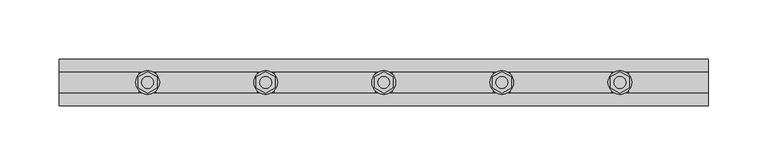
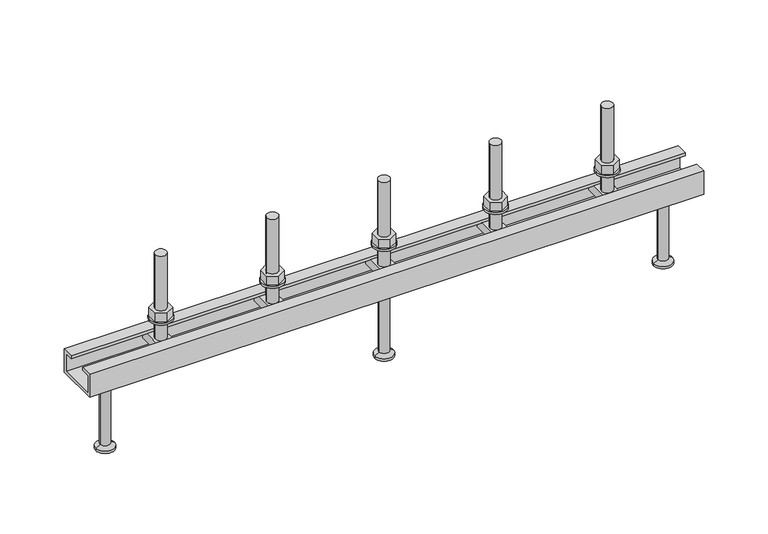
"""IFC4 building model written with IfcOpenShell, lengths in millimetres: fastener geometry, JTA-W JORDAHL® AnchorChannels : JTA-W L=550 mm."""

from ifc_helpers import new_model, si_unit, point, frame, frame_2d, origin, place, context, project, spatial, polyline, circle_curve, trimmed, segment, composite_curve, outline, extrude, source, transform, mapped, element, save
from ifc_brep_helpers import plane_surface, cylinder_surface, revolved_surface, advanced_brep


def fastener_d2bac832(model_context):
    return source(origin(), model_context, "Body", "SolidModel", [
        extrude(outline(polyline([(375.0, 9.2376043), (383.0, 4.6188022), (383.0, -4.6188022), (375.0, -9.2376043), (367.0, -4.6188022), (367.0, 4.6188022), (375.0, 9.2376043)]), holes=[composite_curve([segment(trimmed(circle_curve(frame_2d((375.0, 0.0)), 5.0), [point((370.0, 0.0))], [point((380.0, 0.0))], True, "CARTESIAN"), True, "CONTINUOUS"), segment(trimmed(circle_curve(frame_2d((375.0, 0.0)), 5.0), [point((380.0, 0.0))], [point((370.0, 0.0))], True, "CARTESIAN"), True, "CONTINUOUS")], self_intersect=False)]), frame((0.0, 0.0, 17.0), z_axis=(0.0, 0.0, 1.0), x_axis=(1.0, 0.0, 0.0)), (0.0, 0.0, 1.0), 8.4),
        extrude(outline(composite_curve([segment(trimmed(circle_curve(frame_2d((375.0, 0.0)), 10.0), [point((365.0, 0.0))], [point((385.0, 0.0))], False, "CARTESIAN"), True, "CONTINUOUS"), segment(trimmed(circle_curve(frame_2d((375.0, 0.0)), 10.0), [point((385.0, 0.0))], [point((365.0, 0.0))], False, "CARTESIAN"), True, "CONTINUOUS")], self_intersect=False), holes=[composite_curve([segment(trimmed(circle_curve(frame_2d((375.0, 0.0)), 5.25), [point((369.75, 0.0))], [point((380.25, 0.0))], True, "CARTESIAN"), True, "CONTINUOUS"), segment(trimmed(circle_curve(frame_2d((375.0, 0.0)), 5.25), [point((380.25, 0.0))], [point((369.75, 0.0))], True, "CARTESIAN"), True, "CONTINUOUS")], self_intersect=False)]), frame((0.0, 0.0, 15.0), z_axis=(0.0, 0.0, 1.0), x_axis=(1.0, 0.0, 0.0)), (0.0, 0.0, 1.0), 2.0),
        extrude(outline(polyline([(275.0, 9.2376043), (283.0, 4.6188022), (283.0, -4.6188022), (275.0, -9.2376043), (267.0, -4.6188022), (267.0, 4.6188022), (275.0, 9.2376043)]), holes=[composite_curve([segment(trimmed(circle_curve(frame_2d((275.0, 0.0)), 5.0), [point((270.0, 0.0))], [point((280.0, 0.0))], True, "CARTESIAN"), True, "CONTINUOUS"), segment(trimmed(circle_curve(frame_2d((275.0, 0.0)), 5.0), [point((280.0, 0.0))], [point((270.0, 0.0))], True, "CARTESIAN"), True, "CONTINUOUS")], self_intersect=False)]), frame((0.0, 0.0, 17.0), z_axis=(0.0, 0.0, 1.0), x_axis=(1.0, 0.0, 0.0)), (0.0, 0.0, 1.0), 8.4),
        extrude(outline(composite_curve([segment(trimmed(circle_curve(frame_2d((275.0, 0.0)), 10.0), [point((265.0, 0.0))], [point((285.0, 0.0))], False, "CARTESIAN"), True, "CONTINUOUS"), segment(trimmed(circle_curve(frame_2d((275.0, 0.0)), 10.0), [point((285.0, 0.0))], [point((265.0, 0.0))], False, "CARTESIAN"), True, "CONTINUOUS")], self_intersect=False), holes=[composite_curve([segment(trimmed(circle_curve(frame_2d((275.0, 0.0)), 5.25), [point((269.75, 0.0))], [point((280.25, 0.0))], True, "CARTESIAN"), True, "CONTINUOUS"), segment(trimmed(circle_curve(frame_2d((275.0, 0.0)), 5.25), [point((280.25, 0.0))], [point((269.75, 0.0))], True, "CARTESIAN"), True, "CONTINUOUS")], self_intersect=False)]), frame((0.0, 0.0, 15.0), z_axis=(0.0, 0.0, 1.0), x_axis=(1.0, 0.0, 0.0)), (0.0, 0.0, 1.0), 2.0),
        extrude(outline(polyline([(175.0, 9.2376043), (183.0, 4.6188022), (183.0, -4.6188022), (175.0, -9.2376043), (167.0, -4.6188022), (167.0, 4.6188022), (175.0, 9.2376043)]), holes=[composite_curve([segment(trimmed(circle_curve(frame_2d((175.0, 0.0)), 5.0), [point((170.0, 0.0))], [point((180.0, 0.0))], True, "CARTESIAN"), True, "CONTINUOUS"), segment(trimmed(circle_curve(frame_2d((175.0, 0.0)), 5.0), [point((180.0, 0.0))], [point((170.0, 0.0))], True, "CARTESIAN"), True, "CONTINUOUS")], self_intersect=False)]), frame((0.0, 0.0, 17.0), z_axis=(0.0, 0.0, 1.0), x_axis=(1.0, 0.0, 0.0)), (0.0, 0.0, 1.0), 8.4),
        extrude(outline(composite_curve([segment(trimmed(circle_curve(frame_2d((175.0, 0.0)), 10.0), [point((165.0, 0.0))], [point((185.0, 0.0))], False, "CARTESIAN"), True, "CONTINUOUS"), segment(trimmed(circle_curve(frame_2d((175.0, 0.0)), 10.0), [point((185.0, 0.0))], [point((165.0, 0.0))], False, "CARTESIAN"), True, "CONTINUOUS")], self_intersect=False), holes=[composite_curve([segment(trimmed(circle_curve(frame_2d((175.0, 0.0)), 5.25), [point((169.75, 0.0))], [point((180.25, 0.0))], True, "CARTESIAN"), True, "CONTINUOUS"), segment(trimmed(circle_curve(frame_2d((175.0, 0.0)), 5.25), [point((180.25, 0.0))], [point((169.75, 0.0))], True, "CARTESIAN"), True, "CONTINUOUS")], self_intersect=False)]), frame((0.0, 0.0, 15.0), z_axis=(0.0, 0.0, 1.0), x_axis=(1.0, 0.0, 0.0)), (0.0, 0.0, 1.0), 2.0),
        advanced_brep(
        [(382.0, 16.25, -3.0), (382.0, -16.25, -3.0), (382.0, -16.25, -11.0), (382.0, 16.25, -11.0), (368.0, 16.25, -3.0), (368.0, 16.25, -11.0), (368.0, -16.25, -11.0), (368.0, -16.25, -3.0), (380.0, 0.0, -3.0), (370.0, 0.0, -3.0), (370.0, 0.0, 77.0), (380.0, 0.0, 77.0)],
        [
            (0, 1),
            (1, 2),
            (2, 3),
            (3, 0),
            (4, 5),
            (5, 6),
            (6, 7),
            (7, 4),
            (0, 4),
            (7, 1),
            (8, 9, circle_curve(frame((375.0, 0.0, -3.0), z_axis=(0.0, 0.0, -1.0), x_axis=(1.0, 0.0, 0.0)), 5.0)),
            (9, 8, circle_curve(frame((375.0, 0.0, -3.0), z_axis=(0.0, 0.0, -1.0), x_axis=(1.0, 0.0, 0.0)), 5.0)),
            (6, 2),
            (5, 3),
            (10, 11, circle_curve(frame((375.0, 0.0, 77.0), z_axis=(0.0, 0.0, 1.0), x_axis=(1.0, 0.0, 0.0)), 5.0)),
            (11, 10, circle_curve(frame((375.0, 0.0, 77.0), z_axis=(0.0, 0.0, 1.0), x_axis=(1.0, 0.0, 0.0)), 5.0)),
            (10, 9),
            (8, 11),
        ],
        [
            plane_surface(frame((382.0, -16.25, -3.0), z_axis=(1.0, 0.0, 0.0), x_axis=(0.0, -1.0, 0.0))),
            plane_surface(frame((368.0, -16.25, -3.0), z_axis=(-1.0, 0.0, 0.0), x_axis=(0.0, 1.0, 0.0))),
            plane_surface(frame((382.0, 16.25, -3.0), z_axis=(0.0, 0.0, 1.0), x_axis=(-1.0, 0.0, 0.0))),
            plane_surface(frame((382.0, -16.25, -3.0), z_axis=(0.0, -1.0, 0.0), x_axis=(-1.0, 0.0, 0.0))),
            plane_surface(frame((382.0, -16.25, -11.0), z_axis=(0.0, 0.0, -1.0), x_axis=(-1.0, 0.0, 0.0))),
            plane_surface(frame((382.0, 16.25, -11.0), z_axis=(0.0, 1.0, 0.0), x_axis=(-1.0, 0.0, 0.0))),
            plane_surface(frame((380.0, 0.0, 77.0), z_axis=(0.0, 0.0, 1.0), x_axis=(0.0, 1.0, 0.0))),
            cylinder_surface(frame((375.0, 0.0, -3.0), z_axis=(0.0, 0.0, 1.0), x_axis=(1.0, 0.0, 0.0)), 5.0),
        ],
        [
            (0, [[1, 2, 3, 4]]),
            (1, [[5, 6, 7, 8]]),
            (2, [[-1, 9, -8, 10], [11, 12]]),
            (3, [[-2, -10, -7, 13]]),
            (4, [[-3, -13, -6, 14]]),
            (5, [[-4, -14, -5, -9]]),
            (6, [[15, 16]]),
            (7, [[-15, 17, -11, 18]]),
            (7, [[-16, -18, -12, -17]]),
        ],
    ),
        advanced_brep(
        [(282.0, 16.25, -3.0), (282.0, -16.25, -3.0), (282.0, -16.25, -11.0), (282.0, 16.25, -11.0), (268.0, 16.25, -3.0), (268.0, 16.25, -11.0), (268.0, -16.25, -11.0), (268.0, -16.25, -3.0), (280.0, 0.0, -3.0), (270.0, 0.0, -3.0), (270.0, 0.0, 77.0), (280.0, 0.0, 77.0)],
        [
            (0, 1),
            (1, 2),
            (2, 3),
            (3, 0),
            (4, 5),
            (5, 6),
            (6, 7),
            (7, 4),
            (0, 4),
            (7, 1),
            (8, 9, circle_curve(frame((275.0, 0.0, -3.0), z_axis=(0.0, 0.0, -1.0), x_axis=(1.0, 0.0, 0.0)), 5.0)),
            (9, 8, circle_curve(frame((275.0, 0.0, -3.0), z_axis=(0.0, 0.0, -1.0), x_axis=(1.0, 0.0, 0.0)), 5.0)),
            (6, 2),
            (5, 3),
            (10, 11, circle_curve(frame((275.0, 0.0, 77.0), z_axis=(0.0, 0.0, 1.0), x_axis=(1.0, 0.0, 0.0)), 5.0)),
            (11, 10, circle_curve(frame((275.0, 0.0, 77.0), z_axis=(0.0, 0.0, 1.0), x_axis=(1.0, 0.0, 0.0)), 5.0)),
            (10, 9),
            (8, 11),
        ],
        [
            plane_surface(frame((282.0, -16.25, -3.0), z_axis=(1.0, 0.0, 0.0), x_axis=(0.0, -1.0, 0.0))),
            plane_surface(frame((268.0, -16.25, -3.0), z_axis=(-1.0, 0.0, 0.0), x_axis=(0.0, 1.0, 0.0))),
            plane_surface(frame((282.0, 16.25, -3.0), z_axis=(0.0, 0.0, 1.0), x_axis=(-1.0, 0.0, 0.0))),
            plane_surface(frame((282.0, -16.25, -3.0), z_axis=(0.0, -1.0, 0.0), x_axis=(-1.0, 0.0, 0.0))),
            plane_surface(frame((282.0, -16.25, -11.0), z_axis=(0.0, 0.0, -1.0), x_axis=(-1.0, 0.0, 0.0))),
            plane_surface(frame((282.0, 16.25, -11.0), z_axis=(0.0, 1.0, 0.0), x_axis=(-1.0, 0.0, 0.0))),
            plane_surface(frame((280.0, 0.0, 77.0), z_axis=(0.0, 0.0, 1.0), x_axis=(0.0, 1.0, 0.0))),
            cylinder_surface(frame((275.0, 0.0, -3.0), z_axis=(0.0, 0.0, 1.0), x_axis=(1.0, 0.0, 0.0)), 5.0),
        ],
        [
            (0, [[1, 2, 3, 4]]),
            (1, [[5, 6, 7, 8]]),
            (2, [[-1, 9, -8, 10], [11, 12]]),
            (3, [[-2, -10, -7, 13]]),
            (4, [[-3, -13, -6, 14]]),
            (5, [[-4, -14, -5, -9]]),
            (6, [[15, 16]]),
            (7, [[-15, 17, -11, 18]]),
            (7, [[-16, -18, -12, -17]]),
        ],
    ),
        advanced_brep(
        [(182.0, 16.25, -3.0), (182.0, -16.25, -3.0), (182.0, -16.25, -11.0), (182.0, 16.25, -11.0), (168.0, 16.25, -3.0), (168.0, 16.25, -11.0), (168.0, -16.25, -11.0), (168.0, -16.25, -3.0), (180.0, 0.0, -3.0), (170.0, 0.0, -3.0), (170.0, 0.0, 77.0), (180.0, 0.0, 77.0)],
        [
            (0, 1),
            (1, 2),
            (2, 3),
            (3, 0),
            (4, 5),
            (5, 6),
            (6, 7),
            (7, 4),
            (0, 4),
            (7, 1),
            (8, 9, circle_curve(frame((175.0, 0.0, -3.0), z_axis=(0.0, 0.0, -1.0), x_axis=(1.0, 0.0, 0.0)), 5.0)),
            (9, 8, circle_curve(frame((175.0, 0.0, -3.0), z_axis=(0.0, 0.0, -1.0), x_axis=(1.0, 0.0, 0.0)), 5.0)),
            (6, 2),
            (5, 3),
            (10, 11, circle_curve(frame((175.0, 0.0, 77.0), z_axis=(0.0, 0.0, 1.0), x_axis=(1.0, 0.0, 0.0)), 5.0)),
            (11, 10, circle_curve(frame((175.0, 0.0, 77.0), z_axis=(0.0, 0.0, 1.0), x_axis=(1.0, 0.0, 0.0)), 5.0)),
            (10, 9),
            (8, 11),
        ],
        [
            plane_surface(frame((182.0, -16.25, -3.0), z_axis=(1.0, 0.0, 0.0), x_axis=(0.0, -1.0, 0.0))),
            plane_surface(frame((168.0, -16.25, -3.0), z_axis=(-1.0, 0.0, 0.0), x_axis=(0.0, 1.0, 0.0))),
            plane_surface(frame((182.0, 16.25, -3.0), z_axis=(0.0, 0.0, 1.0), x_axis=(-1.0, 0.0, 0.0))),
            plane_surface(frame((182.0, -16.25, -3.0), z_axis=(0.0, -1.0, 0.0), x_axis=(-1.0, 0.0, 0.0))),
            plane_surface(frame((182.0, -16.25, -11.0), z_axis=(0.0, 0.0, -1.0), x_axis=(-1.0, 0.0, 0.0))),
            plane_surface(frame((182.0, 16.25, -11.0), z_axis=(0.0, 1.0, 0.0), x_axis=(-1.0, 0.0, 0.0))),
            plane_surface(frame((180.0, 0.0, 77.0), z_axis=(0.0, 0.0, 1.0), x_axis=(0.0, 1.0, 0.0))),
            cylinder_surface(frame((175.0, 0.0, -3.0), z_axis=(0.0, 0.0, 1.0), x_axis=(1.0, 0.0, 0.0)), 5.0),
        ],
        [
            (0, [[1, 2, 3, 4]]),
            (1, [[5, 6, 7, 8]]),
            (2, [[-1, 9, -8, 10], [11, 12]]),
            (3, [[-2, -10, -7, 13]]),
            (4, [[-3, -13, -6, 14]]),
            (5, [[-4, -14, -5, -9]]),
            (6, [[15, 16]]),
            (7, [[-15, 17, -11, 18]]),
            (7, [[-16, -18, -12, -17]]),
        ],
    ),
        advanced_brep(
        [(275.0, 0.0, -22.0), (288.5, 0.0, -22.0), (261.5, 0.0, -22.0), (266.5, 0.0, -90.0), (283.5, 0.0, -90.0), (275.0, 0.0, -90.0), (266.5, 0.0, -88.0), (283.5, 0.0, -88.0), (270.5, 0.0, -85.6905989), (279.5, 0.0, -85.6905989), (270.5, 0.0, -24.5), (279.5, 0.0, -24.5)],
        [
            (0, 1),
            (1, 2, circle_curve(frame((275.0, 0.0, -22.0), z_axis=(0.0, 0.0, 1.0), x_axis=(1.0, 0.0, 0.0)), 13.5)),
            (2, 0),
            (2, 1, circle_curve(frame((275.0, 0.0, -22.0), z_axis=(0.0, 0.0, 1.0), x_axis=(1.0, 0.0, 0.0)), 13.5)),
            (3, 4, circle_curve(frame((275.0, 0.0, -90.0), z_axis=(0.0, 0.0, -1.0), x_axis=(1.0, 0.0, 0.0)), 8.5)),
            (4, 5),
            (5, 3),
            (4, 3, circle_curve(frame((275.0, 0.0, -90.0), z_axis=(0.0, 0.0, -1.0), x_axis=(1.0, 0.0, 0.0)), 8.5)),
            (6, 7, circle_curve(frame((275.0, 0.0, -88.0), z_axis=(0.0, 0.0, -1.0), x_axis=(1.0, 0.0, 0.0)), 8.5)),
            (7, 4),
            (3, 6),
            (7, 6, circle_curve(frame((275.0, 0.0, -88.0), z_axis=(0.0, 0.0, -1.0), x_axis=(1.0, 0.0, 0.0)), 8.5)),
            (8, 9, circle_curve(frame((275.0, 0.0, -85.6905989), z_axis=(0.0, 0.0, -1.0), x_axis=(1.0, 0.0, 0.0)), 4.5)),
            (9, 7),
            (6, 8),
            (9, 8, circle_curve(frame((275.0, 0.0, -85.6905989), z_axis=(0.0, 0.0, -1.0), x_axis=(1.0, 0.0, 0.0)), 4.5)),
            (10, 11, circle_curve(frame((275.0, 0.0, -24.5), z_axis=(0.0, 0.0, -1.0), x_axis=(1.0, 0.0, 0.0)), 4.5)),
            (11, 9),
            (8, 10),
            (11, 10, circle_curve(frame((275.0, 0.0, -24.5), z_axis=(0.0, 0.0, -1.0), x_axis=(1.0, 0.0, 0.0)), 4.5)),
            (1, 11),
            (10, 2),
        ],
        [
            plane_surface(frame((275.0, 0.0, -22.0), z_axis=(0.0, 0.0, 1.0), x_axis=(1.0, 0.0, 0.0))),
            plane_surface(frame((275.0, 0.0, -90.0), z_axis=(0.0, 0.0, -1.0), x_axis=(1.0, 0.0, 0.0))),
            cylinder_surface(frame((275.0, 0.0, 2282.3150031), z_axis=(0.0, 0.0, 1.0), x_axis=(1.0, 0.0, 0.0)), 8.5),
            revolved_surface(polyline([(283.5, 0.0, -88.0), (279.5, 0.0, -85.6905989)]), (275.0, 0.0, 2282.3150031), (0.0, 0.0, 1.0)),
            cylinder_surface(frame((275.0, 0.0, 2282.3150031), z_axis=(0.0, 0.0, 1.0), x_axis=(1.0, 0.0, 0.0)), 4.5),
            revolved_surface(polyline([(279.5, 0.0, -24.5), (288.5, 0.0, -22.0)]), (275.0, 0.0, 2282.3150031), (0.0, 0.0, 1.0)),
        ],
        [
            (0, [[1, 2, 3]]),
            (0, [[-3, 4, -1]]),
            (1, [[5, 6, 7]]),
            (1, [[8, -7, -6]]),
            (2, [[9, 10, -5, 11]]),
            (2, [[12, -11, -8, -10]]),
            (3, [[13, 14, -9, 15]]),
            (3, [[16, -15, -12, -14]]),
            (4, [[17, 18, -13, 19]]),
            (4, [[20, -19, -16, -18]]),
            (5, [[-2, 21, -17, 22]]),
            (5, [[-4, -22, -20, -21]]),
        ],
    ),
        extrude(outline(polyline([(475.0, 9.2376043), (483.0, 4.6188022), (483.0, -4.6188022), (475.0, -9.2376043), (467.0, -4.6188022), (467.0, 4.6188022), (475.0, 9.2376043)]), holes=[composite_curve([segment(trimmed(circle_curve(frame_2d((475.0, 0.0)), 5.0), [point((470.0, 0.0))], [point((480.0, 0.0))], True, "CARTESIAN"), True, "CONTINUOUS"), segment(trimmed(circle_curve(frame_2d((475.0, 0.0)), 5.0), [point((480.0, 0.0))], [point((470.0, 0.0))], True, "CARTESIAN"), True, "CONTINUOUS")], self_intersect=False)]), frame((0.0, 0.0, 17.0), z_axis=(0.0, 0.0, 1.0), x_axis=(1.0, 0.0, 0.0)), (0.0, 0.0, 1.0), 8.4),
        extrude(outline(composite_curve([segment(trimmed(circle_curve(frame_2d((475.0, 0.0)), 10.0), [point((465.0, 0.0))], [point((485.0, 0.0))], False, "CARTESIAN"), True, "CONTINUOUS"), segment(trimmed(circle_curve(frame_2d((475.0, 0.0)), 10.0), [point((485.0, 0.0))], [point((465.0, 0.0))], False, "CARTESIAN"), True, "CONTINUOUS")], self_intersect=False), holes=[composite_curve([segment(trimmed(circle_curve(frame_2d((475.0, 0.0)), 5.25), [point((469.75, 0.0))], [point((480.25, 0.0))], True, "CARTESIAN"), True, "CONTINUOUS"), segment(trimmed(circle_curve(frame_2d((475.0, 0.0)), 5.25), [point((480.25, 0.0))], [point((469.75, 0.0))], True, "CARTESIAN"), True, "CONTINUOUS")], self_intersect=False)]), frame((0.0, 0.0, 15.0), z_axis=(0.0, 0.0, 1.0), x_axis=(1.0, 0.0, 0.0)), (0.0, 0.0, 1.0), 2.0),
        extrude(outline(polyline([(75.0, 9.2376043), (83.0, 4.6188022), (83.0, -4.6188022), (75.0, -9.2376043), (67.0, -4.6188022), (67.0, 4.6188022), (75.0, 9.2376043)]), holes=[composite_curve([segment(trimmed(circle_curve(frame_2d((75.0, 0.0)), 5.0), [point((70.0, 0.0))], [point((80.0, 0.0))], True, "CARTESIAN"), True, "CONTINUOUS"), segment(trimmed(circle_curve(frame_2d((75.0, 0.0)), 5.0), [point((80.0, 0.0))], [point((70.0, 0.0))], True, "CARTESIAN"), True, "CONTINUOUS")], self_intersect=False)]), frame((0.0, 0.0, 17.0), z_axis=(0.0, 0.0, 1.0), x_axis=(1.0, 0.0, 0.0)), (0.0, 0.0, 1.0), 8.4),
        extrude(outline(composite_curve([segment(trimmed(circle_curve(frame_2d((75.0, 0.0)), 10.0), [point((65.0, 0.0))], [point((85.0, 0.0))], False, "CARTESIAN"), True, "CONTINUOUS"), segment(trimmed(circle_curve(frame_2d((75.0, 0.0)), 10.0), [point((85.0, 0.0))], [point((65.0, 0.0))], False, "CARTESIAN"), True, "CONTINUOUS")], self_intersect=False), holes=[composite_curve([segment(trimmed(circle_curve(frame_2d((75.0, 0.0)), 5.25), [point((69.75, 0.0))], [point((80.25, 0.0))], True, "CARTESIAN"), True, "CONTINUOUS"), segment(trimmed(circle_curve(frame_2d((75.0, 0.0)), 5.25), [point((80.25, 0.0))], [point((69.75, 0.0))], True, "CARTESIAN"), True, "CONTINUOUS")], self_intersect=False)]), frame((0.0, 0.0, 15.0), z_axis=(0.0, 0.0, 1.0), x_axis=(1.0, 0.0, 0.0)), (0.0, 0.0, 1.0), 2.0),
        advanced_brep(
        [(482.0, 16.25, -3.0), (482.0, -16.25, -3.0), (482.0, -16.25, -11.0), (482.0, 16.25, -11.0), (468.0, 16.25, -3.0), (468.0, 16.25, -11.0), (468.0, -16.25, -11.0), (468.0, -16.25, -3.0), (480.0, 0.0, -3.0), (470.0, 0.0, -3.0), (470.0, 0.0, 77.0), (480.0, 0.0, 77.0)],
        [
            (0, 1),
            (1, 2),
            (2, 3),
            (3, 0),
            (4, 5),
            (5, 6),
            (6, 7),
            (7, 4),
            (0, 4),
            (7, 1),
            (8, 9, circle_curve(frame((475.0, 0.0, -3.0), z_axis=(0.0, 0.0, -1.0), x_axis=(1.0, 0.0, 0.0)), 5.0)),
            (9, 8, circle_curve(frame((475.0, 0.0, -3.0), z_axis=(0.0, 0.0, -1.0), x_axis=(1.0, 0.0, 0.0)), 5.0)),
            (6, 2),
            (5, 3),
            (10, 11, circle_curve(frame((475.0, 0.0, 77.0), z_axis=(0.0, 0.0, 1.0), x_axis=(1.0, 0.0, 0.0)), 5.0)),
            (11, 10, circle_curve(frame((475.0, 0.0, 77.0), z_axis=(0.0, 0.0, 1.0), x_axis=(1.0, 0.0, 0.0)), 5.0)),
            (10, 9),
            (8, 11),
        ],
        [
            plane_surface(frame((482.0, -16.25, -3.0), z_axis=(1.0, 0.0, 0.0), x_axis=(0.0, -1.0, 0.0))),
            plane_surface(frame((468.0, -16.25, -3.0), z_axis=(-1.0, 0.0, 0.0), x_axis=(0.0, 1.0, 0.0))),
            plane_surface(frame((482.0, 16.25, -3.0), z_axis=(0.0, 0.0, 1.0), x_axis=(-1.0, 0.0, 0.0))),
            plane_surface(frame((482.0, -16.25, -3.0), z_axis=(0.0, -1.0, 0.0), x_axis=(-1.0, 0.0, 0.0))),
            plane_surface(frame((482.0, -16.25, -11.0), z_axis=(0.0, 0.0, -1.0), x_axis=(-1.0, 0.0, 0.0))),
            plane_surface(frame((482.0, 16.25, -11.0), z_axis=(0.0, 1.0, 0.0), x_axis=(-1.0, 0.0, 0.0))),
            plane_surface(frame((480.0, 0.0, 77.0), z_axis=(0.0, 0.0, 1.0), x_axis=(0.0, 1.0, 0.0))),
            cylinder_surface(frame((475.0, 0.0, -3.0), z_axis=(0.0, 0.0, 1.0), x_axis=(1.0, 0.0, 0.0)), 5.0),
        ],
        [
            (0, [[1, 2, 3, 4]]),
            (1, [[5, 6, 7, 8]]),
            (2, [[-1, 9, -8, 10], [11, 12]]),
            (3, [[-2, -10, -7, 13]]),
            (4, [[-3, -13, -6, 14]]),
            (5, [[-4, -14, -5, -9]]),
            (6, [[15, 16]]),
            (7, [[-15, 17, -11, 18]]),
            (7, [[-16, -18, -12, -17]]),
        ],
    ),
        advanced_brep(
        [(82.0, 16.25, -3.0), (82.0, -16.25, -3.0), (82.0, -16.25, -11.0), (82.0, 16.25, -11.0), (68.0, 16.25, -3.0), (68.0, 16.25, -11.0), (68.0, -16.25, -11.0), (68.0, -16.25, -3.0), (80.0, 0.0, -3.0), (70.0, 0.0, -3.0), (70.0, 0.0, 77.0), (80.0, 0.0, 77.0)],
        [
            (0, 1),
            (1, 2),
            (2, 3),
            (3, 0),
            (4, 5),
            (5, 6),
            (6, 7),
            (7, 4),
            (0, 4),
            (7, 1),
            (8, 9, circle_curve(frame((75.0, 0.0, -3.0), z_axis=(0.0, 0.0, -1.0), x_axis=(1.0, 0.0, 0.0)), 5.0)),
            (9, 8, circle_curve(frame((75.0, 0.0, -3.0), z_axis=(0.0, 0.0, -1.0), x_axis=(1.0, 0.0, 0.0)), 5.0)),
            (6, 2),
            (5, 3),
            (10, 11, circle_curve(frame((75.0, 0.0, 77.0), z_axis=(0.0, 0.0, 1.0), x_axis=(1.0, 0.0, 0.0)), 5.0)),
            (11, 10, circle_curve(frame((75.0, 0.0, 77.0), z_axis=(0.0, 0.0, 1.0), x_axis=(1.0, 0.0, 0.0)), 5.0)),
            (10, 9),
            (8, 11),
        ],
        [
            plane_surface(frame((82.0, -16.25, -3.0), z_axis=(1.0, 0.0, 0.0), x_axis=(0.0, -1.0, 0.0))),
            plane_surface(frame((68.0, -16.25, -3.0), z_axis=(-1.0, 0.0, 0.0), x_axis=(0.0, 1.0, 0.0))),
            plane_surface(frame((82.0, 16.25, -3.0), z_axis=(0.0, 0.0, 1.0), x_axis=(-1.0, 0.0, 0.0))),
            plane_surface(frame((82.0, -16.25, -3.0), z_axis=(0.0, -1.0, 0.0), x_axis=(-1.0, 0.0, 0.0))),
            plane_surface(frame((82.0, -16.25, -11.0), z_axis=(0.0, 0.0, -1.0), x_axis=(-1.0, 0.0, 0.0))),
            plane_surface(frame((82.0, 16.25, -11.0), z_axis=(0.0, 1.0, 0.0), x_axis=(-1.0, 0.0, 0.0))),
            plane_surface(frame((80.0, 0.0, 77.0), z_axis=(0.0, 0.0, 1.0), x_axis=(0.0, 1.0, 0.0))),
            cylinder_surface(frame((75.0, 0.0, -3.0), z_axis=(0.0, 0.0, 1.0), x_axis=(1.0, 0.0, 0.0)), 5.0),
        ],
        [
            (0, [[1, 2, 3, 4]]),
            (1, [[5, 6, 7, 8]]),
            (2, [[-1, 9, -8, 10], [11, 12]]),
            (3, [[-2, -10, -7, 13]]),
            (4, [[-3, -13, -6, 14]]),
            (5, [[-4, -14, -5, -9]]),
            (6, [[15, 16]]),
            (7, [[-15, 17, -11, 18]]),
            (7, [[-16, -18, -12, -17]]),
        ],
    ),
        advanced_brep(
        [(525.0, 0.0, -22.0), (538.5, 0.0, -22.0), (511.5, 0.0, -22.0), (516.5, 0.0, -90.0), (533.5, 0.0, -90.0), (525.0, 0.0, -90.0), (516.5, 0.0, -88.0), (533.5, 0.0, -88.0), (520.5, 0.0, -85.6905989), (529.5, 0.0, -85.6905989), (520.5, 0.0, -24.5), (529.5, 0.0, -24.5)],
        [
            (0, 1),
            (1, 2, circle_curve(frame((525.0, 0.0, -22.0), z_axis=(0.0, 0.0, 1.0), x_axis=(1.0, 0.0, 0.0)), 13.5)),
            (2, 0),
            (2, 1, circle_curve(frame((525.0, 0.0, -22.0), z_axis=(0.0, 0.0, 1.0), x_axis=(1.0, 0.0, 0.0)), 13.5)),
            (3, 4, circle_curve(frame((525.0, 0.0, -90.0), z_axis=(0.0, 0.0, -1.0), x_axis=(1.0, 0.0, 0.0)), 8.5)),
            (4, 5),
            (5, 3),
            (4, 3, circle_curve(frame((525.0, 0.0, -90.0), z_axis=(0.0, 0.0, -1.0), x_axis=(1.0, 0.0, 0.0)), 8.5)),
            (6, 7, circle_curve(frame((525.0, 0.0, -88.0), z_axis=(0.0, 0.0, -1.0), x_axis=(1.0, 0.0, 0.0)), 8.5)),
            (7, 4),
            (3, 6),
            (7, 6, circle_curve(frame((525.0, 0.0, -88.0), z_axis=(0.0, 0.0, -1.0), x_axis=(1.0, 0.0, 0.0)), 8.5)),
            (8, 9, circle_curve(frame((525.0, 0.0, -85.6905989), z_axis=(0.0, 0.0, -1.0), x_axis=(1.0, 0.0, 0.0)), 4.5)),
            (9, 7),
            (6, 8),
            (9, 8, circle_curve(frame((525.0, 0.0, -85.6905989), z_axis=(0.0, 0.0, -1.0), x_axis=(1.0, 0.0, 0.0)), 4.5)),
            (10, 11, circle_curve(frame((525.0, 0.0, -24.5), z_axis=(0.0, 0.0, -1.0), x_axis=(1.0, 0.0, 0.0)), 4.5)),
            (11, 9),
            (8, 10),
            (11, 10, circle_curve(frame((525.0, 0.0, -24.5), z_axis=(0.0, 0.0, -1.0), x_axis=(1.0, 0.0, 0.0)), 4.5)),
            (1, 11),
            (10, 2),
        ],
        [
            plane_surface(frame((525.0, 0.0, -22.0), z_axis=(0.0, 0.0, 1.0), x_axis=(1.0, 0.0, 0.0))),
            plane_surface(frame((525.0, 0.0, -90.0), z_axis=(0.0, 0.0, -1.0), x_axis=(1.0, 0.0, 0.0))),
            cylinder_surface(frame((525.0, 0.0, 2282.3150031), z_axis=(0.0, 0.0, 1.0), x_axis=(1.0, 0.0, 0.0)), 8.5),
            revolved_surface(polyline([(533.5, 0.0, -88.0), (529.5, 0.0, -85.6905989)]), (525.0, 0.0, 2282.3150031), (0.0, 0.0, 1.0)),
            cylinder_surface(frame((525.0, 0.0, 2282.3150031), z_axis=(0.0, 0.0, 1.0), x_axis=(1.0, 0.0, 0.0)), 4.5),
            revolved_surface(polyline([(529.5, 0.0, -24.5), (538.5, 0.0, -22.0)]), (525.0, 0.0, 2282.3150031), (0.0, 0.0, 1.0)),
        ],
        [
            (0, [[1, 2, 3]]),
            (0, [[-3, 4, -1]]),
            (1, [[5, 6, 7]]),
            (1, [[8, -7, -6]]),
            (2, [[9, 10, -5, 11]]),
            (2, [[12, -11, -8, -10]]),
            (3, [[13, 14, -9, 15]]),
            (3, [[16, -15, -12, -14]]),
            (4, [[17, 18, -13, 19]]),
            (4, [[20, -19, -16, -18]]),
            (5, [[-2, 21, -17, 22]]),
            (5, [[-4, -22, -20, -21]]),
        ],
    ),
        advanced_brep(
        [(25.0, 0.0, -22.0), (38.5, 0.0, -22.0), (11.5, 0.0, -22.0), (16.5, 0.0, -90.0), (33.5, 0.0, -90.0), (25.0, 0.0, -90.0), (16.5, 0.0, -88.0), (33.5, 0.0, -88.0), (20.5, 0.0, -85.6905989), (29.5, 0.0, -85.6905989), (20.5, 0.0, -24.5), (29.5, 0.0, -24.5)],
        [
            (0, 1),
            (1, 2, circle_curve(frame((25.0, 0.0, -22.0), z_axis=(0.0, 0.0, 1.0), x_axis=(1.0, 0.0, 0.0)), 13.5)),
            (2, 0),
            (2, 1, circle_curve(frame((25.0, 0.0, -22.0), z_axis=(0.0, 0.0, 1.0), x_axis=(1.0, 0.0, 0.0)), 13.5)),
            (3, 4, circle_curve(frame((25.0, 0.0, -90.0), z_axis=(0.0, 0.0, -1.0), x_axis=(1.0, 0.0, 0.0)), 8.5)),
            (4, 5),
            (5, 3),
            (4, 3, circle_curve(frame((25.0, 0.0, -90.0), z_axis=(0.0, 0.0, -1.0), x_axis=(1.0, 0.0, 0.0)), 8.5)),
            (6, 7, circle_curve(frame((25.0, 0.0, -88.0), z_axis=(0.0, 0.0, -1.0), x_axis=(1.0, 0.0, 0.0)), 8.5)),
            (7, 4),
            (3, 6),
            (7, 6, circle_curve(frame((25.0, 0.0, -88.0), z_axis=(0.0, 0.0, -1.0), x_axis=(1.0, 0.0, 0.0)), 8.5)),
            (8, 9, circle_curve(frame((25.0, 0.0, -85.6905989), z_axis=(0.0, 0.0, -1.0), x_axis=(1.0, 0.0, 0.0)), 4.5)),
            (9, 7),
            (6, 8),
            (9, 8, circle_curve(frame((25.0, 0.0, -85.6905989), z_axis=(0.0, 0.0, -1.0), x_axis=(1.0, 0.0, 0.0)), 4.5)),
            (10, 11, circle_curve(frame((25.0, 0.0, -24.5), z_axis=(0.0, 0.0, -1.0), x_axis=(1.0, 0.0, 0.0)), 4.5)),
            (11, 9),
            (8, 10),
            (11, 10, circle_curve(frame((25.0, 0.0, -24.5), z_axis=(0.0, 0.0, -1.0), x_axis=(1.0, 0.0, 0.0)), 4.5)),
            (1, 11),
            (10, 2),
        ],
        [
            plane_surface(frame((25.0, 0.0, -22.0), z_axis=(0.0, 0.0, 1.0), x_axis=(1.0, 0.0, 0.0))),
            plane_surface(frame((25.0, 0.0, -90.0), z_axis=(0.0, 0.0, -1.0), x_axis=(1.0, 0.0, 0.0))),
            cylinder_surface(frame((25.0, 0.0, 2282.3150031), z_axis=(0.0, 0.0, 1.0), x_axis=(1.0, 0.0, 0.0)), 8.5),
            revolved_surface(polyline([(33.5, 0.0, -88.0), (29.5, 0.0, -85.6905989)]), (25.0, 0.0, 2282.3150031), (0.0, 0.0, 1.0)),
            cylinder_surface(frame((25.0, 0.0, 2282.3150031), z_axis=(0.0, 0.0, 1.0), x_axis=(1.0, 0.0, 0.0)), 4.5),
            revolved_surface(polyline([(29.5, 0.0, -24.5), (38.5, 0.0, -22.0)]), (25.0, 0.0, 2282.3150031), (0.0, 0.0, 1.0)),
        ],
        [
            (0, [[1, 2, 3]]),
            (0, [[-3, 4, -1]]),
            (1, [[5, 6, 7]]),
            (1, [[8, -7, -6]]),
            (2, [[9, 10, -5, 11]]),
            (2, [[12, -11, -8, -10]]),
            (3, [[13, 14, -9, 15]]),
            (3, [[16, -15, -12, -14]]),
            (4, [[17, 18, -13, 19]]),
            (4, [[20, -19, -16, -18]]),
            (5, [[-2, 21, -17, 22]]),
            (5, [[-4, -22, -20, -21]]),
        ],
    ),
        extrude(outline(polyline([(19.75, 0.0), (19.75, -22.0), (-19.75, -22.0), (-19.75, 0.0), (-9.0, 0.0), (-9.0, -3.0), (-17.25, -3.0), (-17.25, -19.5), (17.25, -19.5), (17.25, -3.0), (9.0, -3.0), (9.0, 0.0), (19.75, 0.0)])), frame((0.0, 0.0, 0.0), z_axis=(1.0, 0.0, 0.0), x_axis=(0.0, 1.0, 0.0)), (0.0, 0.0, 1.0), 550.0),
    ])


if __name__ == "__main__":
    model = new_model("IFC4")
    model_context = context("Model", 3, world=origin())
    ifc_project = project(units=[si_unit("LENGTHUNIT", "METRE", prefix="MILLI")], contexts=[model_context])
    site = spatial("IfcSite", under=ifc_project)
    building = spatial("IfcBuilding", under=site)
    placement = place(None, origin())
    fastener_shape = fastener_d2bac832(model_context)
    element("IfcFastener", 1, ObjectType="JTA-W JORDAHL® AnchorChannels : JTA-W L=550 mm", at=placement, inside=building, context=model_context, shape_type="MappedRepresentation", body=[
        mapped(fastener_shape, transform((0.0, 0.0, 0.0), x_axis=(1.0, 0.0, 0.0), y_axis=(0.0, 1.0, 0.0), z_axis=(0.0, 0.0, 1.0))),
    ])
    save(model, "model.ifc")
